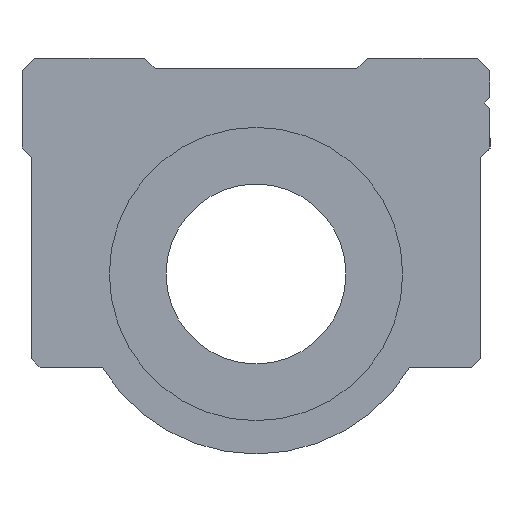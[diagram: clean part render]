
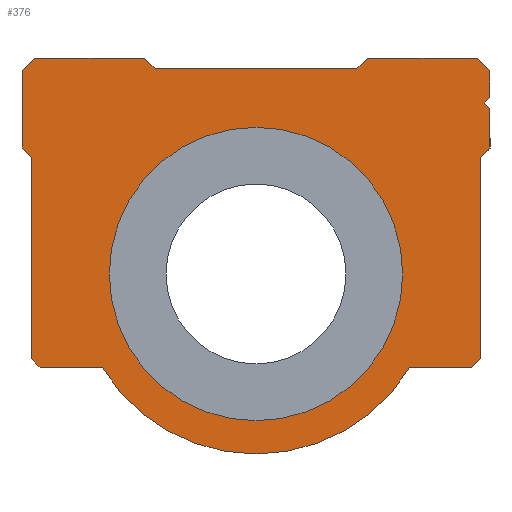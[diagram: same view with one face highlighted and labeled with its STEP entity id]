
A CAD part, left-side view. The second image highlights one B-rep face of the part: STEP entity #376.
In plain terms, the highlighted planar face has unit normal (-1, 0, 0).
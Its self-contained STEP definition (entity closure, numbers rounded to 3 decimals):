
#49=CARTESIAN_POINT('',(0.0,6.2,12.));
#50=VERTEX_POINT('',#49);
#51=CARTESIAN_POINT('',(0.0,5.6,11.4));
#52=VERTEX_POINT('',#51);
#53=CARTESIAN_POINT('',(0.0,6.2,12.));
#54=DIRECTION('',(0.0,-0.707,-0.707));
#55=VECTOR('',#54,0.849);
#56=LINE('',#53,#55);
#57=EDGE_CURVE('',#50,#52,#56,.T.);
#90=CARTESIAN_POINT('',(0.0,-5.6,11.4));
#91=VERTEX_POINT('',#90);
#92=CARTESIAN_POINT('',(0.0,-5.6,11.4));
#93=DIRECTION('',(0.0,1.0,0.0));
#94=VECTOR('',#93,11.2);
#95=LINE('',#92,#94);
#96=EDGE_CURVE('',#91,#52,#95,.T.);
#120=CARTESIAN_POINT('',(0.0,-6.2,12.));
#121=VERTEX_POINT('',#120);
#122=CARTESIAN_POINT('',(0.0,-5.6,11.4));
#123=DIRECTION('',(0.0,-0.707,0.707));
#124=VECTOR('',#123,0.849);
#125=LINE('',#122,#124);
#126=EDGE_CURVE('',#91,#121,#125,.T.);
#161=CARTESIAN_POINT('',(0.0,12.,-5.2));
#162=VERTEX_POINT('',#161);
#169=CARTESIAN_POINT('',(0.0,12.5,-4.7));
#170=VERTEX_POINT('',#169);
#171=CARTESIAN_POINT('',(0.0,12.,-5.2));
#172=DIRECTION('',(0.0,0.707,0.707));
#173=VECTOR('',#172,0.707);
#174=LINE('',#171,#173);
#175=EDGE_CURVE('',#162,#170,#174,.T.);
#192=CARTESIAN_POINT('',(0.0,12.5,6.5));
#193=VERTEX_POINT('',#192);
#194=CARTESIAN_POINT('',(0.0,12.5,6.5));
#195=DIRECTION('',(0.0,0.0,-1.0));
#196=VECTOR('',#195,11.2);
#197=LINE('',#194,#196);
#198=EDGE_CURVE('',#193,#170,#197,.T.);
#228=CARTESIAN_POINT('',(0.0,-0.034,2.623));
#229=DIRECTION('',(1.0,0.0,0.0));
#230=DIRECTION('',(0.0,0.0,-1.0));
#231=AXIS2_PLACEMENT_3D('',#228,#229,#230);
#232=PLANE('',#231);
#233=ORIENTED_EDGE('',*,*,#175,.F.);
#234=CARTESIAN_POINT('',(0.0,8.542,-5.2));
#235=VERTEX_POINT('',#234);
#236=CARTESIAN_POINT('',(0.0,12.,-5.2));
#237=DIRECTION('',(0.0,-1.0,0.0));
#238=VECTOR('',#237,3.458);
#239=LINE('',#236,#238);
#240=EDGE_CURVE('',#162,#235,#239,.T.);
#241=ORIENTED_EDGE('',*,*,#240,.T.);
#242=CARTESIAN_POINT('',(0.0,-8.542,-5.2));
#243=VERTEX_POINT('',#242);
#244=CARTESIAN_POINT('',(0.0,0.0,0.0));
#245=DIRECTION('',(-1.,0.0,0.0));
#246=DIRECTION('',(0.0,0.854,0.52));
#247=AXIS2_PLACEMENT_3D('',#244,#245,#246);
#248=CIRCLE('',#247,10.);
#249=EDGE_CURVE('',#235,#243,#248,.T.);
#250=ORIENTED_EDGE('',*,*,#249,.T.);
#251=CARTESIAN_POINT('',(0.0,-12.,-5.2));
#252=VERTEX_POINT('',#251);
#253=CARTESIAN_POINT('',(0.0,-8.542,-5.2));
#254=DIRECTION('',(0.0,-1.0,0.0));
#255=VECTOR('',#254,3.458);
#256=LINE('',#253,#255);
#257=EDGE_CURVE('',#243,#252,#256,.T.);
#258=ORIENTED_EDGE('',*,*,#257,.T.);
#259=CARTESIAN_POINT('',(0.0,-12.5,-4.7));
#260=VERTEX_POINT('',#259);
#261=CARTESIAN_POINT('',(0.0,-12.5,-4.7));
#262=DIRECTION('',(0.0,0.707,-0.707));
#263=VECTOR('',#262,0.707);
#264=LINE('',#261,#263);
#265=EDGE_CURVE('',#260,#252,#264,.T.);
#266=ORIENTED_EDGE('',*,*,#265,.F.);
#267=CARTESIAN_POINT('',(0.0,-12.5,6.5));
#268=VERTEX_POINT('',#267);
#269=CARTESIAN_POINT('',(0.0,-12.5,-4.7));
#270=DIRECTION('',(0.0,0.0,1.0));
#271=VECTOR('',#270,11.2);
#272=LINE('',#269,#271);
#273=EDGE_CURVE('',#260,#268,#272,.T.);
#274=ORIENTED_EDGE('',*,*,#273,.T.);
#275=CARTESIAN_POINT('',(0.0,-13.,7.));
#276=VERTEX_POINT('',#275);
#277=CARTESIAN_POINT('',(0.0,-13.,7.));
#278=DIRECTION('',(0.0,0.707,-0.707));
#279=VECTOR('',#278,0.707);
#280=LINE('',#277,#279);
#281=EDGE_CURVE('',#276,#268,#280,.T.);
#282=ORIENTED_EDGE('',*,*,#281,.F.);
#283=CARTESIAN_POINT('',(0.0,-13.0,9.2));
#284=VERTEX_POINT('',#283);
#285=CARTESIAN_POINT('',(0.0,-13.,7.));
#286=DIRECTION('',(0.0,0.0,1.0));
#287=VECTOR('',#286,2.2);
#288=LINE('',#285,#287);
#289=EDGE_CURVE('',#276,#284,#288,.T.);
#290=ORIENTED_EDGE('',*,*,#289,.T.);
#291=CARTESIAN_POINT('',(0.0,-12.7,9.5));
#292=VERTEX_POINT('',#291);
#293=CARTESIAN_POINT('',(0.0,-13.0,9.2));
#294=DIRECTION('',(0.0,0.707,0.707));
#295=VECTOR('',#294,0.424);
#296=LINE('',#293,#295);
#297=EDGE_CURVE('',#284,#292,#296,.T.);
#298=ORIENTED_EDGE('',*,*,#297,.T.);
#299=CARTESIAN_POINT('',(0.0,-13.0,9.8));
#300=VERTEX_POINT('',#299);
#301=CARTESIAN_POINT('',(0.0,-12.7,9.5));
#302=DIRECTION('',(0.0,-0.707,0.707));
#303=VECTOR('',#302,0.424);
#304=LINE('',#301,#303);
#305=EDGE_CURVE('',#292,#300,#304,.T.);
#306=ORIENTED_EDGE('',*,*,#305,.T.);
#307=CARTESIAN_POINT('',(0.0,-13.0,11.3));
#308=VERTEX_POINT('',#307);
#309=CARTESIAN_POINT('',(0.0,-13.0,9.8));
#310=DIRECTION('',(0.0,0.0,1.0));
#311=VECTOR('',#310,1.5);
#312=LINE('',#309,#311);
#313=EDGE_CURVE('',#300,#308,#312,.T.);
#314=ORIENTED_EDGE('',*,*,#313,.T.);
#315=CARTESIAN_POINT('',(0.0,-12.3,12.));
#316=VERTEX_POINT('',#315);
#317=CARTESIAN_POINT('',(0.0,-12.3,12.));
#318=DIRECTION('',(0.0,-0.707,-0.707));
#319=VECTOR('',#318,0.99);
#320=LINE('',#317,#319);
#321=EDGE_CURVE('',#316,#308,#320,.T.);
#322=ORIENTED_EDGE('',*,*,#321,.F.);
#323=CARTESIAN_POINT('',(0.0,-12.3,12.));
#324=DIRECTION('',(0.0,1.0,0.0));
#325=VECTOR('',#324,6.1);
#326=LINE('',#323,#325);
#327=EDGE_CURVE('',#316,#121,#326,.T.);
#328=ORIENTED_EDGE('',*,*,#327,.T.);
#329=ORIENTED_EDGE('',*,*,#126,.F.);
#330=ORIENTED_EDGE('',*,*,#96,.T.);
#331=ORIENTED_EDGE('',*,*,#57,.F.);
#332=CARTESIAN_POINT('',(0.0,12.3,12.));
#333=VERTEX_POINT('',#332);
#334=CARTESIAN_POINT('',(0.0,6.2,12.));
#335=DIRECTION('',(0.0,1.0,0.0));
#336=VECTOR('',#335,6.1);
#337=LINE('',#334,#336);
#338=EDGE_CURVE('',#50,#333,#337,.T.);
#339=ORIENTED_EDGE('',*,*,#338,.T.);
#340=CARTESIAN_POINT('',(0.0,13.0,11.3));
#341=VERTEX_POINT('',#340);
#342=CARTESIAN_POINT('',(0.0,13.0,11.3));
#343=DIRECTION('',(0.0,-0.707,0.707));
#344=VECTOR('',#343,0.99);
#345=LINE('',#342,#344);
#346=EDGE_CURVE('',#341,#333,#345,.T.);
#347=ORIENTED_EDGE('',*,*,#346,.F.);
#348=CARTESIAN_POINT('',(0.0,13.,7.));
#349=VERTEX_POINT('',#348);
#350=CARTESIAN_POINT('',(0.0,13.0,11.3));
#351=DIRECTION('',(0.0,0.0,-1.0));
#352=VECTOR('',#351,4.3);
#353=LINE('',#350,#352);
#354=EDGE_CURVE('',#341,#349,#353,.T.);
#355=ORIENTED_EDGE('',*,*,#354,.T.);
#356=CARTESIAN_POINT('',(0.0,12.5,6.5));
#357=DIRECTION('',(0.0,0.707,0.707));
#358=VECTOR('',#357,0.707);
#359=LINE('',#356,#358);
#360=EDGE_CURVE('',#193,#349,#359,.T.);
#361=ORIENTED_EDGE('',*,*,#360,.F.);
#362=ORIENTED_EDGE('',*,*,#198,.T.);
#363=EDGE_LOOP('',(#233,#241,#250,#258,#266,#274,#282,#290,#298,#306,#314,#322,#328,#329,#330,#331,#339,#347,#355,#361,#362));
#364=FACE_OUTER_BOUND('',#363,.T.);
#365=CARTESIAN_POINT('',(0.0,8.15,0.));
#366=VERTEX_POINT('',#365);
#367=CARTESIAN_POINT('',(0.0,0.0,0.0));
#368=DIRECTION('',(1.0,0.0,0.0));
#369=DIRECTION('',(0.0,-1.0,0.0));
#370=AXIS2_PLACEMENT_3D('',#367,#368,#369);
#371=CIRCLE('',#370,8.15);
#372=EDGE_CURVE('',#366,#366,#371,.T.);
#373=ORIENTED_EDGE('',*,*,#372,.T.);
#374=EDGE_LOOP('',(#373));
#375=FACE_BOUND('',#374,.T.);
#376=ADVANCED_FACE('',(#364,#375),#232,.F.);
